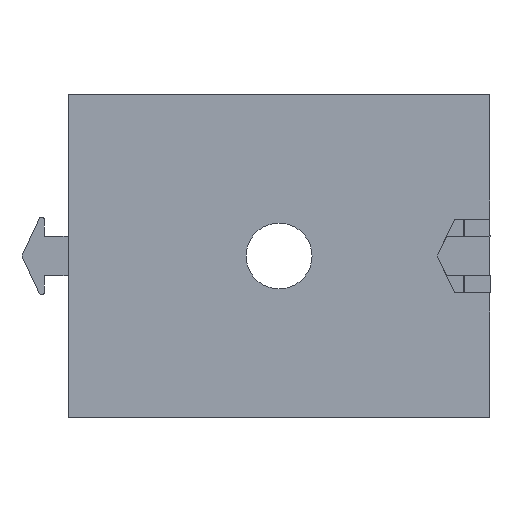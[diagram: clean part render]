
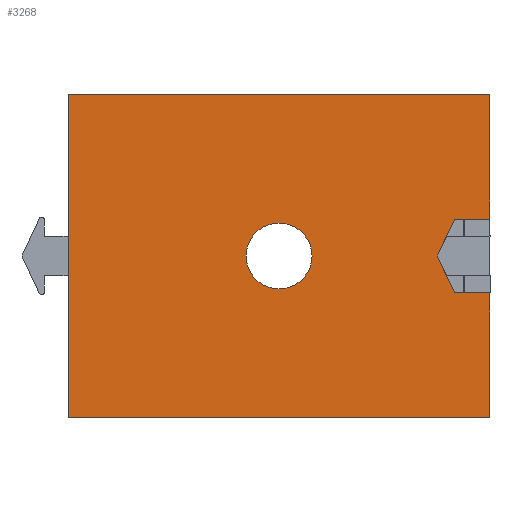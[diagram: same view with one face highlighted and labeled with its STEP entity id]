
A CAD part, front view. The second image highlights one B-rep face of the part: STEP entity #3268.
In plain terms, the highlighted planar face has unit normal (0, -1, 0).
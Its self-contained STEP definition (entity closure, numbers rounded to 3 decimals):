
#21 = EDGE_CURVE ( 'NONE', #2819, #2803, #4887, .T. ) ;
#22 = EDGE_CURVE ( 'NONE', #2890, #2795, #4882, .T. ) ;
#23 = EDGE_CURVE ( 'NONE', #2879, #2724, #4884, .T. ) ;
#24 = EDGE_CURVE ( 'NONE', #2724, #2823, #4892, .T. ) ;
#105 = EDGE_CURVE ( 'NONE', #2819, #2890, #1699, .T. ) ;
#279 = AXIS2_PLACEMENT_3D ( 'NONE', #1218, #1223, #1224 ) ;
#405 = CARTESIAN_POINT ( 'NONE',  ( -16., -35., 10. ) ) ;
#406 = DIRECTION ( 'NONE',  ( 0., 0., -1. ) ) ;
#426 = CARTESIAN_POINT ( 'NONE',  ( 16., -35., 2.8 ) ) ;
#519 = CARTESIAN_POINT ( 'NONE',  ( 12., -35., 0. ) ) ;
#527 = CARTESIAN_POINT ( 'NONE',  ( 0., -35., 2.5 ) ) ;
#572 = CARTESIAN_POINT ( 'NONE',  ( 0., -35., -2.5 ) ) ;
#590 = CARTESIAN_POINT ( 'NONE',  ( 16., -35., -12.25 ) ) ;
#598 = CARTESIAN_POINT ( 'NONE',  ( 16., -35., 12.25 ) ) ;
#614 = CARTESIAN_POINT ( 'NONE',  ( -16., -35., 12.25 ) ) ;
#618 = CARTESIAN_POINT ( 'NONE',  ( 13.306, -35., 2.8 ) ) ;
#667 = CARTESIAN_POINT ( 'NONE',  ( 16., -35., -2.8 ) ) ;
#675 = CARTESIAN_POINT ( 'NONE',  ( 13.306, -35., -2.8 ) ) ;
#686 = CARTESIAN_POINT ( 'NONE',  ( -16., -35., -12.25 ) ) ;
#1217 = PLANE ( 'NONE',  #279 ) ;
#1218 = CARTESIAN_POINT ( 'NONE',  ( 16., -35., 10. ) ) ;
#1223 = DIRECTION ( 'NONE',  ( 0., 1., 0. ) ) ;
#1224 = DIRECTION ( 'NONE',  ( 0., 0., 1. ) ) ;
#1436 = CARTESIAN_POINT ( 'NONE',  ( 16., -35., -2.8 ) ) ;
#1441 = DIRECTION ( 'NONE',  ( -1., 0., 0. ) ) ;
#1448 = CARTESIAN_POINT ( 'NONE',  ( 16., -35., 10. ) ) ;
#1449 = DIRECTION ( 'NONE',  ( 0., 0., -1. ) ) ;
#1495 = CARTESIAN_POINT ( 'NONE',  ( 16., -35., 2.8 ) ) ;
#1496 = DIRECTION ( 'NONE',  ( 1., 0., 0. ) ) ;
#1563 = CARTESIAN_POINT ( 'NONE',  ( 0., -35., 0. ) ) ;
#1564 = DIRECTION ( 'NONE',  ( 0., 1., 0. ) ) ;
#1565 = DIRECTION ( 'NONE',  ( 0., 0., 1. ) ) ;
#1697 = VECTOR ( 'NONE', #406, 1000. ) ;
#1699 = LINE ( 'NONE', #405, #1697 ) ;
#1915 = FACE_BOUND ( 'NONE', #2989, .T. ) ;
#1920 = FACE_OUTER_BOUND ( 'NONE', #2934, .T. ) ;
#1976 = AXIS2_PLACEMENT_3D ( 'NONE', #1563, #1564, #1565 ) ;
#2025 = AXIS2_PLACEMENT_3D ( 'NONE', #2472, #2482, #2483 ) ;
#2137 = CARTESIAN_POINT ( 'NONE',  ( 16., -35., 10. ) ) ;
#2138 = DIRECTION ( 'NONE',  ( 0., 0., -1. ) ) ;
#2472 = CARTESIAN_POINT ( 'NONE',  ( 0., -35., 0. ) ) ;
#2482 = DIRECTION ( 'NONE',  ( 0., 1., 0. ) ) ;
#2483 = DIRECTION ( 'NONE',  ( 0., 0., 1. ) ) ;
#2628 = VERTEX_POINT ( 'NONE', #426 ) ;
#2724 = VERTEX_POINT ( 'NONE', #519 ) ;
#2732 = VERTEX_POINT ( 'NONE', #527 ) ;
#2777 = VERTEX_POINT ( 'NONE', #572 ) ;
#2795 = VERTEX_POINT ( 'NONE', #590 ) ;
#2803 = VERTEX_POINT ( 'NONE', #598 ) ;
#2819 = VERTEX_POINT ( 'NONE', #614 ) ;
#2823 = VERTEX_POINT ( 'NONE', #618 ) ;
#2871 = VERTEX_POINT ( 'NONE', #667 ) ;
#2879 = VERTEX_POINT ( 'NONE', #675 ) ;
#2890 = VERTEX_POINT ( 'NONE', #686 ) ;
#2934 = EDGE_LOOP ( 'NONE', ( #4733, #4734, #4735, #4736, #4737, #4738, #4739, #4740, #4741 ) ) ;
#2989 = EDGE_LOOP ( 'NONE', ( #4742, #4743 ) ) ;
#3268 = ADVANCED_FACE ( 'NONE', ( #1920, #1915 ), #1217, .F. ) ;
#3278 = LINE ( 'NONE', #1436, #3308 ) ;
#3308 = VECTOR ( 'NONE', #1441, 1000. ) ;
#3316 = LINE ( 'NONE', #1448, #3317 ) ;
#3317 = VECTOR ( 'NONE', #1449, 1000. ) ;
#3356 = LINE ( 'NONE', #1495, #3357 ) ;
#3357 = VECTOR ( 'NONE', #1496, 1000. ) ;
#3402 = CIRCLE ( 'NONE', #1976, 2.5 ) ;
#3488 = LINE ( 'NONE', #2137, #3489 ) ;
#3489 = VECTOR ( 'NONE', #2138, 1000. ) ;
#3781 = CIRCLE ( 'NONE', #2025, 2.5 ) ;
#4033 = EDGE_CURVE ( 'NONE', #2871, #2879, #3278, .T. ) ;
#4037 = EDGE_CURVE ( 'NONE', #2803, #2628, #3316, .T. ) ;
#4059 = EDGE_CURVE ( 'NONE', #2823, #2628, #3356, .T. ) ;
#4083 = EDGE_CURVE ( 'NONE', #2777, #2732, #3402, .T. ) ;
#4139 = EDGE_CURVE ( 'NONE', #2871, #2795, #3488, .T. ) ;
#4298 = EDGE_CURVE ( 'NONE', #2732, #2777, #3781, .T. ) ;
#4733 = ORIENTED_EDGE ( 'NONE', *, *, #4139, .F. ) ;
#4734 = ORIENTED_EDGE ( 'NONE', *, *, #4033, .T. ) ;
#4735 = ORIENTED_EDGE ( 'NONE', *, *, #23, .T. ) ;
#4736 = ORIENTED_EDGE ( 'NONE', *, *, #24, .T. ) ;
#4737 = ORIENTED_EDGE ( 'NONE', *, *, #4059, .T. ) ;
#4738 = ORIENTED_EDGE ( 'NONE', *, *, #4037, .F. ) ;
#4739 = ORIENTED_EDGE ( 'NONE', *, *, #21, .F. ) ;
#4740 = ORIENTED_EDGE ( 'NONE', *, *, #105, .T. ) ;
#4741 = ORIENTED_EDGE ( 'NONE', *, *, #22, .T. ) ;
#4742 = ORIENTED_EDGE ( 'NONE', *, *, #4298, .T. ) ;
#4743 = ORIENTED_EDGE ( 'NONE', *, *, #4083, .T. ) ;
#4882 = LINE ( 'NONE', #4989, #4889 ) ;
#4884 = LINE ( 'NONE', #5080, #4891 ) ;
#4887 = LINE ( 'NONE', #5000, #4888 ) ;
#4888 = VECTOR ( 'NONE', #5084, 1000. ) ;
#4889 = VECTOR ( 'NONE', #5045, 1000. ) ;
#4891 = VECTOR ( 'NONE', #5069, 1000. ) ;
#4892 = LINE ( 'NONE', #4986, #4893 ) ;
#4893 = VECTOR ( 'NONE', #5031, 1000. ) ;
#4986 = CARTESIAN_POINT ( 'NONE',  ( 16.545, -35., 9.746 ) ) ;
#4989 = CARTESIAN_POINT ( 'NONE',  ( -16., -35., -12.25 ) ) ;
#5000 = CARTESIAN_POINT ( 'NONE',  ( -16., -35., 12.25 ) ) ;
#5031 = DIRECTION ( 'NONE',  ( 0.423, 0., 0.906 ) ) ;
#5045 = DIRECTION ( 'NONE',  ( 1., 0., 0. ) ) ;
#5069 = DIRECTION ( 'NONE',  ( -0.423, 0., 0.906 ) ) ;
#5080 = CARTESIAN_POINT ( 'NONE',  ( 8.884, -35., 6.682 ) ) ;
#5084 = DIRECTION ( 'NONE',  ( 1., 0., 0. ) ) ;
